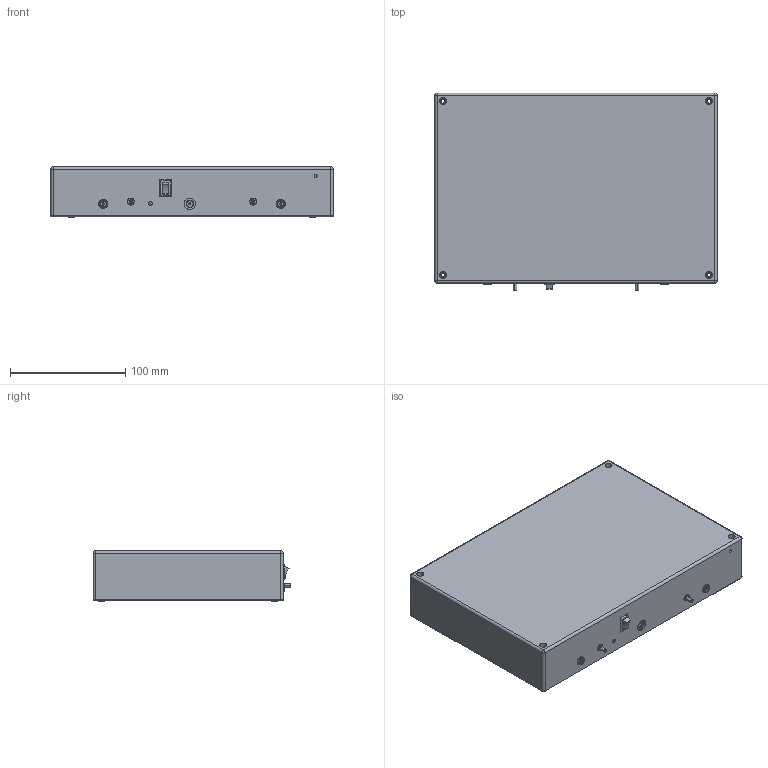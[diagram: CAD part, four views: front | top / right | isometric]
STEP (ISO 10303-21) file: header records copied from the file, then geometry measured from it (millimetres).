
FILE_DESCRIPTION (( 'STEP AP214' ), '1' );
FILE_NAME ('E80.A2K-I三维图.STEP', '2025-04-10T03:19:29', ( '微软用户' ), ( '微软中国' ), 'SwSTEP 2.0', 'SolidWorks 2016', '' );
FILE_SCHEMA (( 'AUTOMOTIVE_DESIGN' ));
Length unit declared in the file: millimetre
Products named in the file (1): E80.A2K-I三维图
Bounding box: 245 x 171.84 x 43.85 mm (x, y, z)
Surface area: 223010.3 mm2 (no closed solid volume)
Topology: 0 solids, 23 shells, 241 faces, 912 edges, 670 vertices
Faces by surface type: cylinder 115, plane 92, torus 12, cone 12, sphere 7, bspline 3
Entity records: 12851 total; most frequent: CARTESIAN_POINT 2361, DIRECTION 1730, ORIENTED_EDGE 1395, EDGE_CURVE 901, VERTEX_POINT 666, AXIS2_PLACEMENT_3D 617, LINE 496, VECTOR 496
